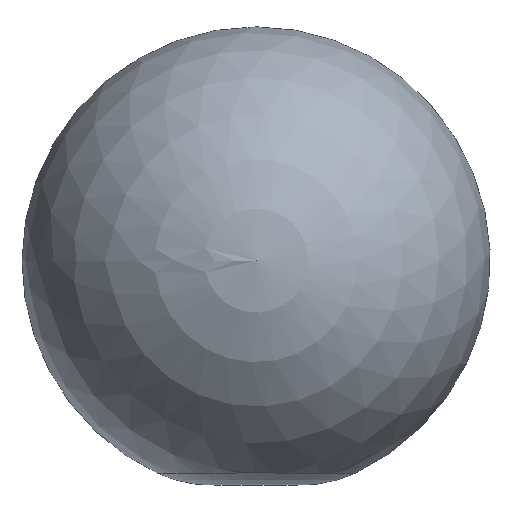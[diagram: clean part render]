
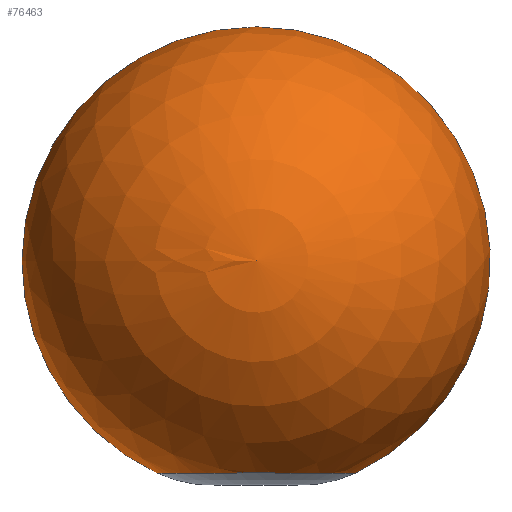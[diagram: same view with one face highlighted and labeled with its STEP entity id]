
A CAD part, top view. The second image highlights one B-rep face of the part: STEP entity #76463.
In plain terms, the highlighted spherical face has radius 1550.37 mm.
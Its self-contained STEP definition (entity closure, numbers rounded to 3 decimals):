
#12720 = CARTESIAN_POINT ( 'NONE',  ( 355.214, -805.11, 0. ) ) ;
#12732 = CARTESIAN_POINT ( 'NONE',  ( -955.214, -805.11, 0. ) ) ;
#12781 = DIRECTION ( 'NONE',  ( -1., 0., 0. ) ) ;
#12782 = DIRECTION ( 'NONE',  ( 0., 0., -1. ) ) ;
#12783 = CARTESIAN_POINT ( 'NONE',  ( -300., 600., 0. ) ) ;
#12785 = AXIS2_PLACEMENT_3D ( 'NONE', #12783, #12782, #12781 ) ;
#12787 = CIRCLE ( 'NONE', #12785, 1550.368 ) ;
#12799 = CARTESIAN_POINT ( 'NONE',  ( -300., 2150.368, 0. ) ) ;
#12800 = DIRECTION ( 'NONE',  ( 1., 0., 0. ) ) ;
#12801 = DIRECTION ( 'NONE',  ( 0., 0., 1. ) ) ;
#12802 = CARTESIAN_POINT ( 'NONE',  ( -300., 600., 0. ) ) ;
#12803 = AXIS2_PLACEMENT_3D ( 'NONE', #12802, #12801, #12800 ) ;
#12805 = CIRCLE ( 'NONE', #12803, 1550.368 ) ;
#13042 = DIRECTION ( 'NONE',  ( -1., 0., 0. ) ) ;
#13043 = DIRECTION ( 'NONE',  ( 0., 0., 1. ) ) ;
#13044 = CARTESIAN_POINT ( 'NONE',  ( -300., 600., 0. ) ) ;
#13045 = AXIS2_PLACEMENT_3D ( 'NONE', #13044, #13043, #13042 ) ;
#13053 = SPHERICAL_SURFACE ( 'NONE', #13045, 1550.368 ) ;
#13054 = FACE_OUTER_BOUND ( 'NONE', #76464, .T. ) ;
#13057 = DIRECTION ( 'NONE',  ( -1., 0., 0. ) ) ;
#13059 = DIRECTION ( 'NONE',  ( 0., 1., 0. ) ) ;
#13060 = AXIS2_PLACEMENT_3D ( 'NONE', #13067, #13059, #13057 ) ;
#13061 = CIRCLE ( 'NONE', #13060, 655.214 ) ;
#13067 = CARTESIAN_POINT ( 'NONE',  ( -300., -805.11, 0. ) ) ;
#76377 = VERTEX_POINT ( 'NONE', #12732 ) ;
#76381 = VERTEX_POINT ( 'NONE', #12720 ) ;
#76390 = ORIENTED_EDGE ( 'NONE', *, *, #76393, .T. ) ;
#76393 = EDGE_CURVE ( 'NONE', #76381, #76394, #12805, .T. ) ;
#76394 = VERTEX_POINT ( 'NONE', #12799 ) ;
#76396 = ORIENTED_EDGE ( 'NONE', *, *, #76398, .F. ) ;
#76398 = EDGE_CURVE ( 'NONE', #76377, #76394, #12787, .T. ) ;
#76461 = EDGE_CURVE ( 'NONE', #76377, #76381, #13061, .T. ) ;
#76463 = ADVANCED_FACE ( 'NONE', ( #13054 ), #13053, .T. ) ;
#76464 = EDGE_LOOP ( 'NONE', ( #76467, #76390, #76396 ) ) ;
#76467 = ORIENTED_EDGE ( 'NONE', *, *, #76461, .T. ) ;
